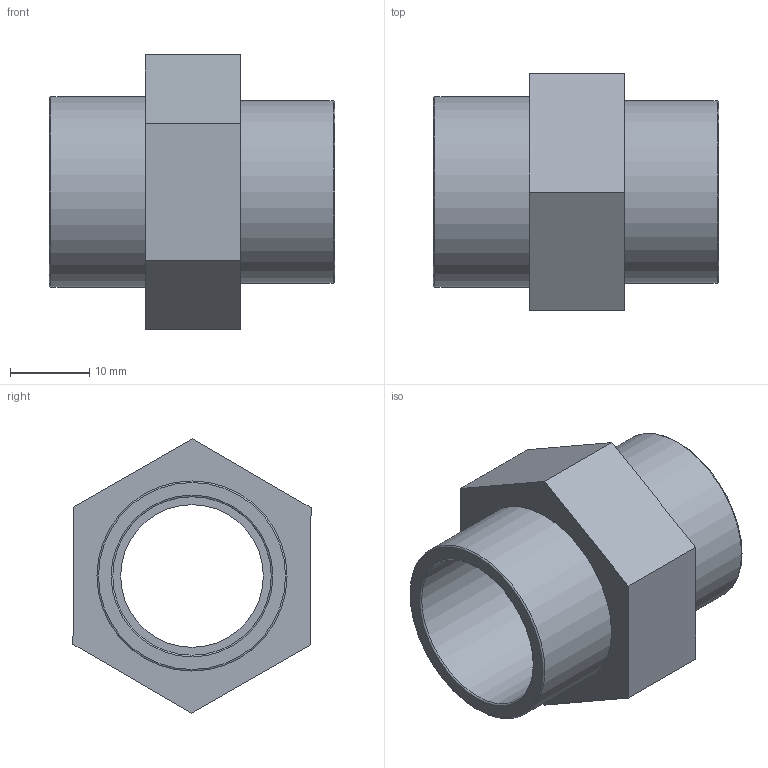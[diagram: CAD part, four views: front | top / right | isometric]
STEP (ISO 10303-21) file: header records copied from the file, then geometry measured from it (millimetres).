
FILE_DESCRIPTION(/* description */ ('PLASSON SOCKET ADAPTOR THR-CEM 20-1/2"'),/* implementation_level */ '2;1');
FILE_NAME(/* name */ 'C:\Dropbox\KIMPROJECTS-Inventor\99-16-3568-Processing\PVC Catalog 2017\050102\050102020005.ipt.stp',/* time_stamp */ '2017-12-07T15:51:51+02:00',/* author */ ('KIM'),/* organization */ (''),/* preprocessor_version */ 'ST-DEVELOPER v15.6',/* originating_system */ 'Autodesk Inventor 2015',/* authorisation */ '');
FILE_SCHEMA (('AUTOMOTIVE_DESIGN { 1 0 10303 214 3 1 1 }'));
Length unit declared in the file: millimetre
Products named in the file (1): 050102020005
Bounding box: 36 x 30.05 x 34.64 mm (x, y, z)
Volume: 9344.3 mm3; surface area: 6216 mm2
Topology: 1 solids, 1 shells, 21 faces, 41 edges, 26 vertices
Faces by surface type: plane 12, cylinder 5, torus 4
Full cylindrical faces by diameter (mm): 18 x1, 18.631 x1, 20 x1, 23 x1, 24 x1
Entity records: 520 total; most frequent: DIRECTION 90, CARTESIAN_POINT 80, ORIENTED_EDGE 64, EDGE_LOOP 36, AXIS2_PLACEMENT_3D 36, EDGE_CURVE 32, VERTEX_POINT 26, FACE_OUTER_BOUND 21
